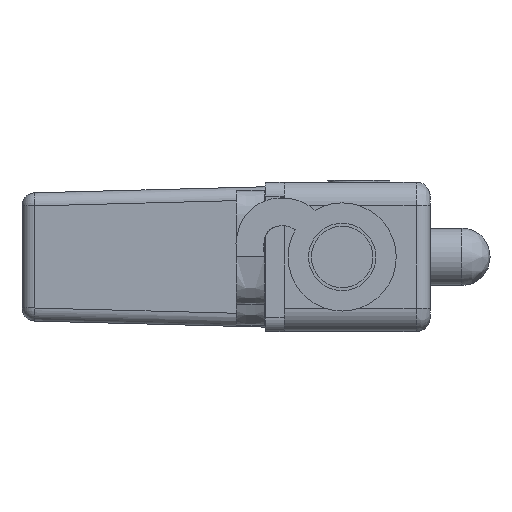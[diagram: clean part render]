
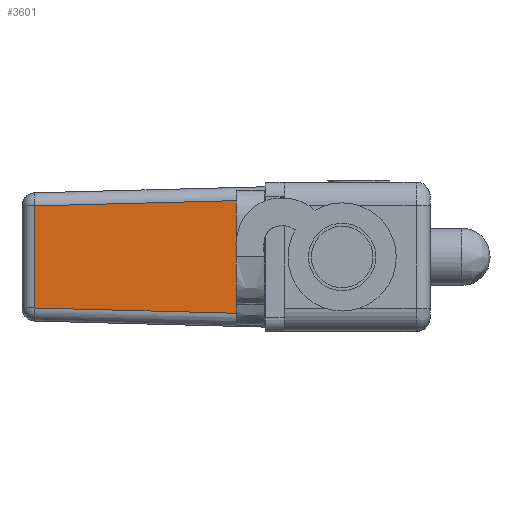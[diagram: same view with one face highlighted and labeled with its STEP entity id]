
A CAD part, left-side view. The second image highlights one B-rep face of the part: STEP entity #3601.
In plain terms, the highlighted planar face has unit normal (-1, 0.026, 0).
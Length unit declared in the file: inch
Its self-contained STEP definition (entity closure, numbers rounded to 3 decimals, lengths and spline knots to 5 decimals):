
#71=PLANE('',#3849);
#275=FACE_OUTER_BOUND('',#489,.T.);
#489=EDGE_LOOP('',(#2530,#2531,#2532,#2533));
#711=LINE('',#5496,#1048);
#714=LINE('',#5511,#1051);
#716=LINE('',#5514,#1053);
#723=LINE('',#5525,#1060);
#1048=VECTOR('',#4084,0.3937);
#1051=VECTOR('',#4101,0.3937);
#1053=VECTOR('',#4105,0.3937);
#1060=VECTOR('',#4120,0.3937);
#1545=VERTEX_POINT('',#5485);
#1548=VERTEX_POINT('',#5492);
#1552=VERTEX_POINT('',#5504);
#1554=VERTEX_POINT('',#5509);
#1920=EDGE_CURVE('',#1545,#1548,#711,.T.);
#1927=EDGE_CURVE('',#1554,#1552,#714,.T.);
#1929=EDGE_CURVE('',#1552,#1545,#716,.T.);
#1936=EDGE_CURVE('',#1554,#1548,#723,.T.);
#2530=ORIENTED_EDGE('',*,*,#1920,.F.);
#2531=ORIENTED_EDGE('',*,*,#1929,.F.);
#2532=ORIENTED_EDGE('',*,*,#1927,.F.);
#2533=ORIENTED_EDGE('',*,*,#1936,.T.);
#3601=ADVANCED_FACE('',(#275),#71,.T.);
#3849=AXIS2_PLACEMENT_3D('',#5524,#4118,#4119);
#4084=DIRECTION('',(-0.026,-0.999,0.026));
#4101=DIRECTION('',(0.026,0.999,0.026));
#4105=DIRECTION('',(0.,0.,1.));
#4118=DIRECTION('center_axis',(-1.,0.026,0.));
#4119=DIRECTION('ref_axis',(0.,0.,1.));
#4120=DIRECTION('',(0.,0.,1.));
#5485=CARTESIAN_POINT('',(-0.93274,2.11283,0.27277));
#5492=CARTESIAN_POINT('',(-0.965,0.881,0.30502));
#5496=CARTESIAN_POINT('',(-0.96439,0.9044,0.30441));
#5504=CARTESIAN_POINT('',(-0.93274,2.11283,-0.27277));
#5509=CARTESIAN_POINT('',(-0.965,0.881,-0.30502));
#5511=CARTESIAN_POINT('',(-0.96479,0.88898,-0.30482));
#5514=CARTESIAN_POINT('',(-0.93274,2.11283,0.1875));
#5524=CARTESIAN_POINT('Origin',(-0.965,0.881,0.375));
#5525=CARTESIAN_POINT('',(-0.965,0.881,-0.375));
